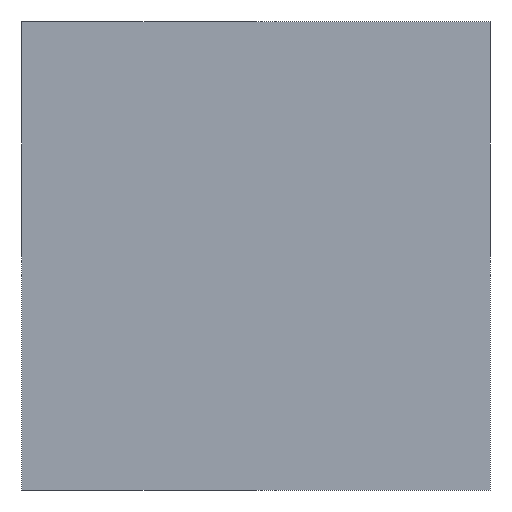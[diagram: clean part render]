
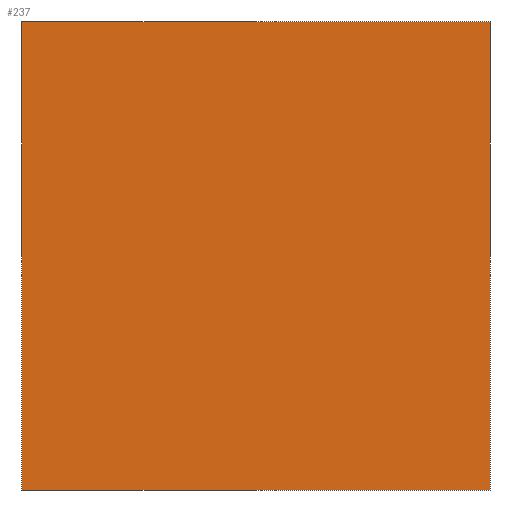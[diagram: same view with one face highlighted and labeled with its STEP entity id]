
A CAD part, front view. The second image highlights one B-rep face of the part: STEP entity #237.
In plain terms, the highlighted planar face has unit normal (0, -1, 0).
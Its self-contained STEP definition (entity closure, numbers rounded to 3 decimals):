
#21 = EDGE_CURVE('',#22,#24,#26,.T.);
#22 = VERTEX_POINT('',#23);
#23 = CARTESIAN_POINT('',(0.,0.,0.));
#24 = VERTEX_POINT('',#25);
#25 = CARTESIAN_POINT('',(0.,0.,50.));
#26 = SURFACE_CURVE('',#27,(#31,#43),.PCURVE_S1.);
#27 = LINE('',#28,#29);
#28 = CARTESIAN_POINT('',(0.,0.,0.));
#29 = VECTOR('',#30,1.);
#30 = DIRECTION('',(0.,0.,1.));
#31 = PCURVE('',#32,#37);
#32 = PLANE('',#33);
#33 = AXIS2_PLACEMENT_3D('',#34,#35,#36);
#34 = CARTESIAN_POINT('',(0.,0.,0.));
#35 = DIRECTION('',(1.,0.,0.));
#36 = DIRECTION('',(0.,0.,1.));
#37 = DEFINITIONAL_REPRESENTATION('',(#38),#42);
#38 = LINE('',#39,#40);
#39 = CARTESIAN_POINT('',(0.,0.));
#40 = VECTOR('',#41,1.);
#41 = DIRECTION('',(1.,0.));
#42 = ( GEOMETRIC_REPRESENTATION_CONTEXT(2) 
PARAMETRIC_REPRESENTATION_CONTEXT() REPRESENTATION_CONTEXT('2D SPACE',''
  ) );
#43 = PCURVE('',#44,#49);
#44 = PLANE('',#45);
#45 = AXIS2_PLACEMENT_3D('',#46,#47,#48);
#46 = CARTESIAN_POINT('',(0.,0.,0.));
#47 = DIRECTION('',(0.,1.,0.));
#48 = DIRECTION('',(0.,0.,1.));
#49 = DEFINITIONAL_REPRESENTATION('',(#50),#54);
#50 = LINE('',#51,#52);
#51 = CARTESIAN_POINT('',(0.,0.));
#52 = VECTOR('',#53,1.);
#53 = DIRECTION('',(1.,0.));
#54 = ( GEOMETRIC_REPRESENTATION_CONTEXT(2) 
PARAMETRIC_REPRESENTATION_CONTEXT() REPRESENTATION_CONTEXT('2D SPACE',''
  ) );
#72 = PLANE('',#73);
#73 = AXIS2_PLACEMENT_3D('',#74,#75,#76);
#74 = CARTESIAN_POINT('',(0.,0.,0.));
#75 = DIRECTION('',(0.,0.,1.));
#76 = DIRECTION('',(1.,0.,0.));
#126 = PLANE('',#127);
#127 = AXIS2_PLACEMENT_3D('',#128,#129,#130);
#128 = CARTESIAN_POINT('',(0.,0.,50.));
#129 = DIRECTION('',(0.,0.,1.));
#130 = DIRECTION('',(1.,0.,0.));
#141 = EDGE_CURVE('',#142,#144,#146,.T.);
#142 = VERTEX_POINT('',#143);
#143 = CARTESIAN_POINT('',(50.,0.,0.));
#144 = VERTEX_POINT('',#145);
#145 = CARTESIAN_POINT('',(50.,0.,50.));
#146 = SURFACE_CURVE('',#147,(#151,#163),.PCURVE_S1.);
#147 = LINE('',#148,#149);
#148 = CARTESIAN_POINT('',(50.,0.,0.));
#149 = VECTOR('',#150,1.);
#150 = DIRECTION('',(0.,0.,1.));
#151 = PCURVE('',#152,#157);
#152 = PLANE('',#153);
#153 = AXIS2_PLACEMENT_3D('',#154,#155,#156);
#154 = CARTESIAN_POINT('',(50.,0.,0.));
#155 = DIRECTION('',(1.,0.,0.));
#156 = DIRECTION('',(0.,0.,1.));
#157 = DEFINITIONAL_REPRESENTATION('',(#158),#162);
#158 = LINE('',#159,#160);
#159 = CARTESIAN_POINT('',(0.,0.));
#160 = VECTOR('',#161,1.);
#161 = DIRECTION('',(1.,0.));
#162 = ( GEOMETRIC_REPRESENTATION_CONTEXT(2) 
PARAMETRIC_REPRESENTATION_CONTEXT() REPRESENTATION_CONTEXT('2D SPACE',''
  ) );
#163 = PCURVE('',#44,#164);
#164 = DEFINITIONAL_REPRESENTATION('',(#165),#169);
#165 = LINE('',#166,#167);
#166 = CARTESIAN_POINT('',(0.,50.));
#167 = VECTOR('',#168,1.);
#168 = DIRECTION('',(1.,0.));
#169 = ( GEOMETRIC_REPRESENTATION_CONTEXT(2) 
PARAMETRIC_REPRESENTATION_CONTEXT() REPRESENTATION_CONTEXT('2D SPACE',''
  ) );
#237 = ADVANCED_FACE('',(#238),#44,.F.);
#238 = FACE_BOUND('',#239,.F.);
#239 = EDGE_LOOP('',(#240,#261,#262,#283));
#240 = ORIENTED_EDGE('',*,*,#241,.F.);
#241 = EDGE_CURVE('',#22,#142,#242,.T.);
#242 = SURFACE_CURVE('',#243,(#247,#254),.PCURVE_S1.);
#243 = LINE('',#244,#245);
#244 = CARTESIAN_POINT('',(0.,0.,0.));
#245 = VECTOR('',#246,1.);
#246 = DIRECTION('',(1.,0.,0.));
#247 = PCURVE('',#44,#248);
#248 = DEFINITIONAL_REPRESENTATION('',(#249),#253);
#249 = LINE('',#250,#251);
#250 = CARTESIAN_POINT('',(0.,0.));
#251 = VECTOR('',#252,1.);
#252 = DIRECTION('',(0.,1.));
#253 = ( GEOMETRIC_REPRESENTATION_CONTEXT(2) 
PARAMETRIC_REPRESENTATION_CONTEXT() REPRESENTATION_CONTEXT('2D SPACE',''
  ) );
#254 = PCURVE('',#72,#255);
#255 = DEFINITIONAL_REPRESENTATION('',(#256),#260);
#256 = LINE('',#257,#258);
#257 = CARTESIAN_POINT('',(0.,0.));
#258 = VECTOR('',#259,1.);
#259 = DIRECTION('',(1.,0.));
#260 = ( GEOMETRIC_REPRESENTATION_CONTEXT(2) 
PARAMETRIC_REPRESENTATION_CONTEXT() REPRESENTATION_CONTEXT('2D SPACE',''
  ) );
#261 = ORIENTED_EDGE('',*,*,#21,.T.);
#262 = ORIENTED_EDGE('',*,*,#263,.T.);
#263 = EDGE_CURVE('',#24,#144,#264,.T.);
#264 = SURFACE_CURVE('',#265,(#269,#276),.PCURVE_S1.);
#265 = LINE('',#266,#267);
#266 = CARTESIAN_POINT('',(0.,0.,50.));
#267 = VECTOR('',#268,1.);
#268 = DIRECTION('',(1.,0.,0.));
#269 = PCURVE('',#44,#270);
#270 = DEFINITIONAL_REPRESENTATION('',(#271),#275);
#271 = LINE('',#272,#273);
#272 = CARTESIAN_POINT('',(50.,0.));
#273 = VECTOR('',#274,1.);
#274 = DIRECTION('',(0.,1.));
#275 = ( GEOMETRIC_REPRESENTATION_CONTEXT(2) 
PARAMETRIC_REPRESENTATION_CONTEXT() REPRESENTATION_CONTEXT('2D SPACE',''
  ) );
#276 = PCURVE('',#126,#277);
#277 = DEFINITIONAL_REPRESENTATION('',(#278),#282);
#278 = LINE('',#279,#280);
#279 = CARTESIAN_POINT('',(0.,0.));
#280 = VECTOR('',#281,1.);
#281 = DIRECTION('',(1.,0.));
#282 = ( GEOMETRIC_REPRESENTATION_CONTEXT(2) 
PARAMETRIC_REPRESENTATION_CONTEXT() REPRESENTATION_CONTEXT('2D SPACE',''
  ) );
#283 = ORIENTED_EDGE('',*,*,#141,.F.);
